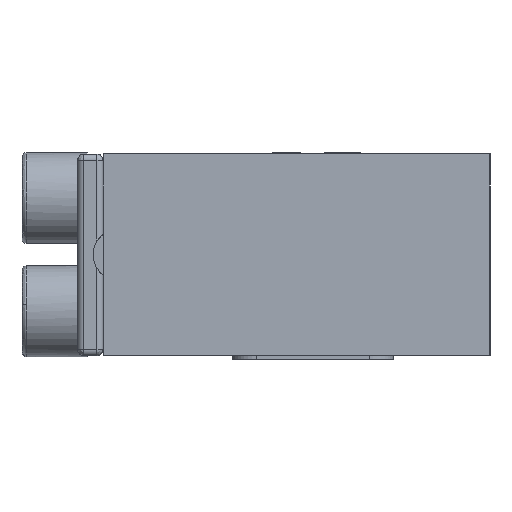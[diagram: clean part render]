
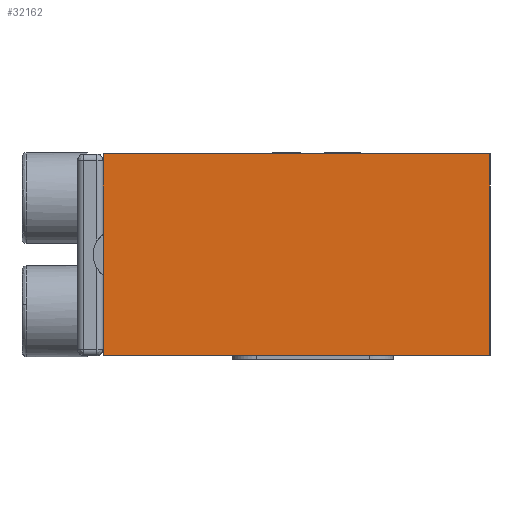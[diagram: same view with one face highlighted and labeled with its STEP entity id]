
A CAD part, left-side view. The second image highlights one B-rep face of the part: STEP entity #32162.
In plain terms, the highlighted planar face has unit normal (-1, 0, 0).
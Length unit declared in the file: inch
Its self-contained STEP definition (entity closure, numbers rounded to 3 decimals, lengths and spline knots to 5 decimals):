
#1205 = CARTESIAN_POINT ( 'NONE',  ( -1.375, -0.44, 0. ) ) ;
#1443 = ORIENTED_EDGE ( 'NONE', *, *, #61843, .T. ) ;
#5752 = CARTESIAN_POINT ( 'NONE',  ( -1.375, 0.52, 0.25 ) ) ;
#7729 = VECTOR ( 'NONE', #56533, 39.37008 ) ;
#8673 = CARTESIAN_POINT ( 'NONE',  ( -1.375, -0.44, 0.25 ) ) ;
#10138 = PLANE ( 'NONE',  #58304 ) ;
#13926 = DIRECTION ( 'NONE',  ( 0., 0., -1. ) ) ;
#16252 = VERTEX_POINT ( 'NONE', #8673 ) ;
#19650 = FACE_OUTER_BOUND ( 'NONE', #24263, .T. ) ;
#24263 = EDGE_LOOP ( 'NONE', ( #43510, #71892, #26059, #1443 ) ) ;
#25146 = DIRECTION ( 'NONE',  ( 0., 0., -1. ) ) ;
#25440 = LINE ( 'NONE', #50282, #7729 ) ;
#26019 = VERTEX_POINT ( 'NONE', #5752 ) ;
#26059 = ORIENTED_EDGE ( 'NONE', *, *, #73573, .F. ) ;
#27330 = CARTESIAN_POINT ( 'NONE',  ( -1.375, -0.44, 0.25 ) ) ;
#28243 = DIRECTION ( 'NONE',  ( 0., -1., 0. ) ) ;
#29329 = VECTOR ( 'NONE', #28243, 39.37008 ) ;
#31678 = LINE ( 'NONE', #49589, #63366 ) ;
#32023 = VERTEX_POINT ( 'NONE', #67695 ) ;
#32162 = ADVANCED_FACE ( 'NONE', ( #19650 ), #10138, .F. ) ;
#33340 = DIRECTION ( 'NONE',  ( 1., 0., 0. ) ) ;
#38886 = VERTEX_POINT ( 'NONE', #74697 ) ;
#41974 = VECTOR ( 'NONE', #25146, 39.37008 ) ;
#43510 = ORIENTED_EDGE ( 'NONE', *, *, #58195, .F. ) ;
#48853 = LINE ( 'NONE', #51923, #29329 ) ;
#49589 = CARTESIAN_POINT ( 'NONE',  ( -1.375, 0.52, 0. ) ) ;
#50282 = CARTESIAN_POINT ( 'NONE',  ( -1.375, 0.04, -0.25 ) ) ;
#51787 = DIRECTION ( 'NONE',  ( 0., 0., -1. ) ) ;
#51923 = CARTESIAN_POINT ( 'NONE',  ( -1.375, 0.04, 0.25 ) ) ;
#56533 = DIRECTION ( 'NONE',  ( 0., 1., 0. ) ) ;
#58195 = EDGE_CURVE ( 'NONE', #32023, #38886, #25440, .T. ) ;
#58304 = AXIS2_PLACEMENT_3D ( 'NONE', #27330, #33340, #51787 ) ;
#61259 = EDGE_CURVE ( 'NONE', #16252, #32023, #73622, .T. ) ;
#61843 = EDGE_CURVE ( 'NONE', #26019, #38886, #31678, .T. ) ;
#63366 = VECTOR ( 'NONE', #13926, 39.37008 ) ;
#67695 = CARTESIAN_POINT ( 'NONE',  ( -1.375, -0.44, -0.25 ) ) ;
#71892 = ORIENTED_EDGE ( 'NONE', *, *, #61259, .F. ) ;
#73573 = EDGE_CURVE ( 'NONE', #26019, #16252, #48853, .T. ) ;
#73622 = LINE ( 'NONE', #1205, #41974 ) ;
#74697 = CARTESIAN_POINT ( 'NONE',  ( -1.375, 0.52, -0.25 ) ) ;
